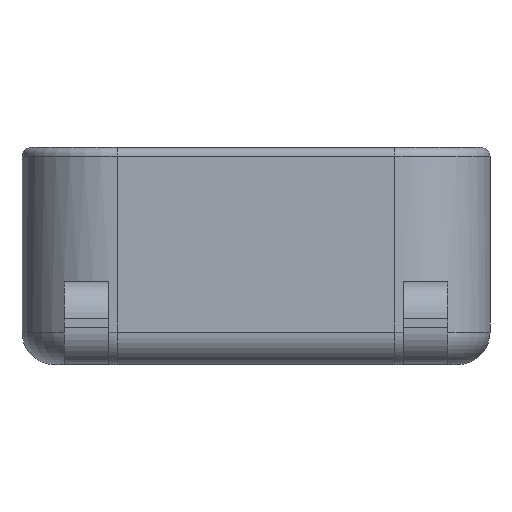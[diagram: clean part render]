
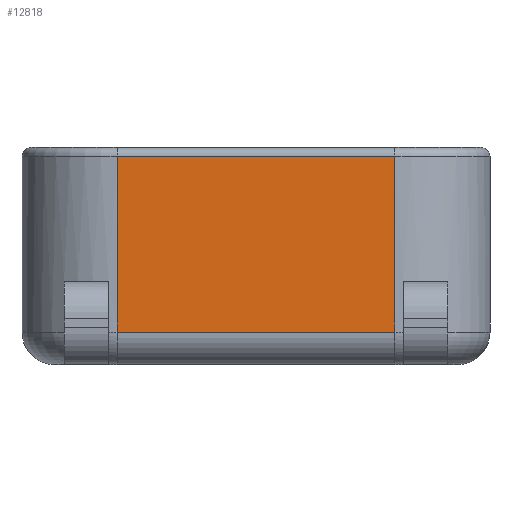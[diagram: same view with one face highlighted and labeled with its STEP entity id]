
A CAD part, left-side view. The second image highlights one B-rep face of the part: STEP entity #12818.
In plain terms, the highlighted planar face has unit normal (-1, 0, 0).
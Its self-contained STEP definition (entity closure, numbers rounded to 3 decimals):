
#10800 = CYLINDRICAL_SURFACE('',#10801,6.45);
#10801 = AXIS2_PLACEMENT_3D('',#10802,#10803,#10804);
#10802 = CARTESIAN_POINT('',(3.4,3.4,-2.2));
#10803 = DIRECTION('',(0.,0.,1.));
#10804 = DIRECTION('',(0.,-1.,0.));
#12339 = CYLINDRICAL_SURFACE('',#12340,0.6);
#12340 = AXIS2_PLACEMENT_3D('',#12341,#12342,#12343);
#12341 = CARTESIAN_POINT('',(-2.45,22.2,11.9));
#12342 = DIRECTION('',(0.,-1.,0.));
#12343 = DIRECTION('',(-1.,-0.,0.));
#12702 = VERTEX_POINT('',#12703);
#12703 = CARTESIAN_POINT('',(-3.05,3.4,11.9));
#12770 = VERTEX_POINT('',#12771);
#12771 = CARTESIAN_POINT('',(-3.05,22.2,11.9));
#12793 = EDGE_CURVE('',#12770,#12702,#12794,.T.);
#12794 = SURFACE_CURVE('',#12795,(#12799,#12806),.PCURVE_S1.);
#12795 = LINE('',#12796,#12797);
#12796 = CARTESIAN_POINT('',(-3.05,22.2,11.9));
#12797 = VECTOR('',#12798,1.);
#12798 = DIRECTION('',(0.,-1.,0.));
#12799 = PCURVE('',#12339,#12800);
#12800 = DEFINITIONAL_REPRESENTATION('',(#12801),#12805);
#12801 = LINE('',#12802,#12803);
#12802 = CARTESIAN_POINT('',(-0.,0.));
#12803 = VECTOR('',#12804,1.);
#12804 = DIRECTION('',(-0.,1.));
#12805 = ( GEOMETRIC_REPRESENTATION_CONTEXT(2) 
PARAMETRIC_REPRESENTATION_CONTEXT() REPRESENTATION_CONTEXT('2D SPACE',''
  ) );
#12806 = PCURVE('',#12807,#12812);
#12807 = PLANE('',#12808);
#12808 = AXIS2_PLACEMENT_3D('',#12809,#12810,#12811);
#12809 = CARTESIAN_POINT('',(-3.05,28.65,-2.2));
#12810 = DIRECTION('',(1.,0.,-0.));
#12811 = DIRECTION('',(0.,-1.,0.));
#12812 = DEFINITIONAL_REPRESENTATION('',(#12813),#12817);
#12813 = LINE('',#12814,#12815);
#12814 = CARTESIAN_POINT('',(6.45,-14.1));
#12815 = VECTOR('',#12816,1.);
#12816 = DIRECTION('',(1.,0.));
#12817 = ( GEOMETRIC_REPRESENTATION_CONTEXT(2) 
PARAMETRIC_REPRESENTATION_CONTEXT() REPRESENTATION_CONTEXT('2D SPACE',''
  ) );
#12818 = ADVANCED_FACE('',(#12819),#12807,.F.);
#12819 = FACE_BOUND('',#12820,.F.);
#12820 = EDGE_LOOP('',(#12821,#12849,#12850,#12873));
#12821 = ORIENTED_EDGE('',*,*,#12822,.T.);
#12822 = EDGE_CURVE('',#12823,#12770,#12825,.T.);
#12823 = VERTEX_POINT('',#12824);
#12824 = CARTESIAN_POINT('',(-3.05,22.2,0.));
#12825 = SURFACE_CURVE('',#12826,(#12830,#12837),.PCURVE_S1.);
#12826 = LINE('',#12827,#12828);
#12827 = CARTESIAN_POINT('',(-3.05,22.2,-2.2));
#12828 = VECTOR('',#12829,1.);
#12829 = DIRECTION('',(0.,0.,1.));
#12830 = PCURVE('',#12807,#12831);
#12831 = DEFINITIONAL_REPRESENTATION('',(#12832),#12836);
#12832 = LINE('',#12833,#12834);
#12833 = CARTESIAN_POINT('',(6.45,0.));
#12834 = VECTOR('',#12835,1.);
#12835 = DIRECTION('',(0.,-1.));
#12836 = ( GEOMETRIC_REPRESENTATION_CONTEXT(2) 
PARAMETRIC_REPRESENTATION_CONTEXT() REPRESENTATION_CONTEXT('2D SPACE',''
  ) );
#12837 = PCURVE('',#12838,#12843);
#12838 = CYLINDRICAL_SURFACE('',#12839,6.45);
#12839 = AXIS2_PLACEMENT_3D('',#12840,#12841,#12842);
#12840 = CARTESIAN_POINT('',(3.4,22.2,-2.2));
#12841 = DIRECTION('',(0.,0.,1.));
#12842 = DIRECTION('',(-0.,1.,0.));
#12843 = DEFINITIONAL_REPRESENTATION('',(#12844),#12848);
#12844 = LINE('',#12845,#12846);
#12845 = CARTESIAN_POINT('',(1.571,0.));
#12846 = VECTOR('',#12847,1.);
#12847 = DIRECTION('',(0.,1.));
#12848 = ( GEOMETRIC_REPRESENTATION_CONTEXT(2) 
PARAMETRIC_REPRESENTATION_CONTEXT() REPRESENTATION_CONTEXT('2D SPACE',''
  ) );
#12849 = ORIENTED_EDGE('',*,*,#12793,.T.);
#12850 = ORIENTED_EDGE('',*,*,#12851,.F.);
#12851 = EDGE_CURVE('',#12852,#12702,#12854,.T.);
#12852 = VERTEX_POINT('',#12853);
#12853 = CARTESIAN_POINT('',(-3.05,3.4,0.));
#12854 = SURFACE_CURVE('',#12855,(#12859,#12866),.PCURVE_S1.);
#12855 = LINE('',#12856,#12857);
#12856 = CARTESIAN_POINT('',(-3.05,3.4,-2.2));
#12857 = VECTOR('',#12858,1.);
#12858 = DIRECTION('',(0.,0.,1.));
#12859 = PCURVE('',#12807,#12860);
#12860 = DEFINITIONAL_REPRESENTATION('',(#12861),#12865);
#12861 = LINE('',#12862,#12863);
#12862 = CARTESIAN_POINT('',(25.25,0.));
#12863 = VECTOR('',#12864,1.);
#12864 = DIRECTION('',(0.,-1.));
#12865 = ( GEOMETRIC_REPRESENTATION_CONTEXT(2) 
PARAMETRIC_REPRESENTATION_CONTEXT() REPRESENTATION_CONTEXT('2D SPACE',''
  ) );
#12866 = PCURVE('',#10800,#12867);
#12867 = DEFINITIONAL_REPRESENTATION('',(#12868),#12872);
#12868 = LINE('',#12869,#12870);
#12869 = CARTESIAN_POINT('',(-1.571,0.));
#12870 = VECTOR('',#12871,1.);
#12871 = DIRECTION('',(-0.,1.));
#12872 = ( GEOMETRIC_REPRESENTATION_CONTEXT(2) 
PARAMETRIC_REPRESENTATION_CONTEXT() REPRESENTATION_CONTEXT('2D SPACE',''
  ) );
#12873 = ORIENTED_EDGE('',*,*,#12874,.F.);
#12874 = EDGE_CURVE('',#12823,#12852,#12875,.T.);
#12875 = SURFACE_CURVE('',#12876,(#12880,#12887),.PCURVE_S1.);
#12876 = LINE('',#12877,#12878);
#12877 = CARTESIAN_POINT('',(-3.05,22.2,0.));
#12878 = VECTOR('',#12879,1.);
#12879 = DIRECTION('',(0.,-1.,0.));
#12880 = PCURVE('',#12807,#12881);
#12881 = DEFINITIONAL_REPRESENTATION('',(#12882),#12886);
#12882 = LINE('',#12883,#12884);
#12883 = CARTESIAN_POINT('',(6.45,-2.2));
#12884 = VECTOR('',#12885,1.);
#12885 = DIRECTION('',(1.,0.));
#12886 = ( GEOMETRIC_REPRESENTATION_CONTEXT(2) 
PARAMETRIC_REPRESENTATION_CONTEXT() REPRESENTATION_CONTEXT('2D SPACE',''
  ) );
#12887 = PCURVE('',#12888,#12893);
#12888 = CYLINDRICAL_SURFACE('',#12889,2.2);
#12889 = AXIS2_PLACEMENT_3D('',#12890,#12891,#12892);
#12890 = CARTESIAN_POINT('',(-0.85,22.2,0.));
#12891 = DIRECTION('',(0.,-1.,0.));
#12892 = DIRECTION('',(-1.,-0.,0.));
#12893 = DEFINITIONAL_REPRESENTATION('',(#12894),#12898);
#12894 = LINE('',#12895,#12896);
#12895 = CARTESIAN_POINT('',(0.,0.));
#12896 = VECTOR('',#12897,1.);
#12897 = DIRECTION('',(0.,1.));
#12898 = ( GEOMETRIC_REPRESENTATION_CONTEXT(2) 
PARAMETRIC_REPRESENTATION_CONTEXT() REPRESENTATION_CONTEXT('2D SPACE',''
  ) );
